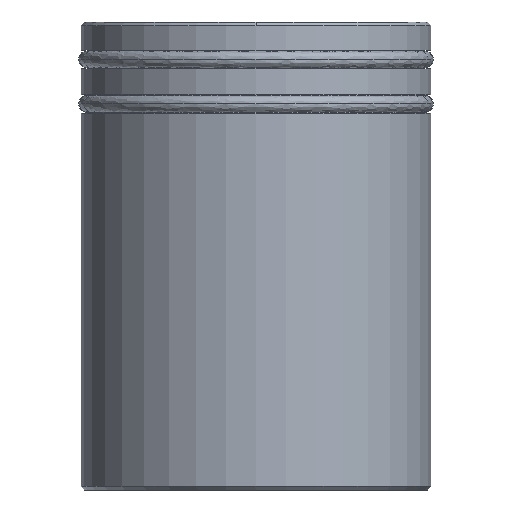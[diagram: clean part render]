
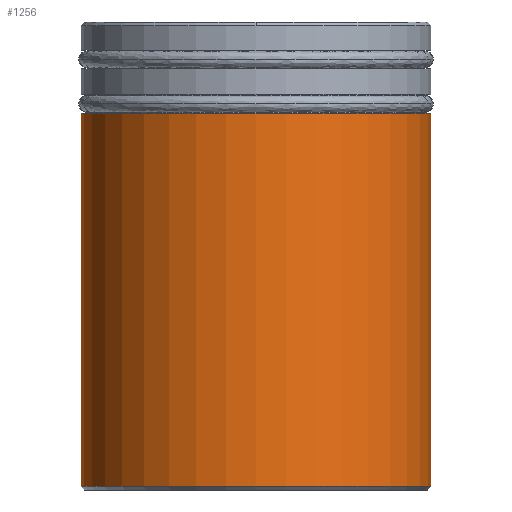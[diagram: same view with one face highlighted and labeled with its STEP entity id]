
A CAD part, front view. The second image highlights one B-rep face of the part: STEP entity #1256.
In plain terms, the highlighted cylindrical face has radius 18.986 mm (diameter 37.973 mm), a partial arc.
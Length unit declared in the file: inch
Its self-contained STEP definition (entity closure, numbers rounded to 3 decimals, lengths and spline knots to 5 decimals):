
#27 = CARTESIAN_POINT ( 'NONE',  ( 0.7475, 0., 1.61 ) ) ;
#88 = DIRECTION ( 'NONE',  ( 0., 0., -1. ) ) ;
#91 = VERTEX_POINT ( 'NONE', #1684 ) ;
#204 = CIRCLE ( 'NONE', #1025, 0.7475 ) ;
#444 = EDGE_CURVE ( 'NONE', #1265, #91, #982, .T. ) ;
#467 = VECTOR ( 'NONE', #1931, 39.37008 ) ;
#471 = ORIENTED_EDGE ( 'NONE', *, *, #2215, .F. ) ;
#494 = ORIENTED_EDGE ( 'NONE', *, *, #444, .T. ) ;
#519 = CARTESIAN_POINT ( 'NONE',  ( -0.7475, 0., 2. ) ) ;
#536 = CARTESIAN_POINT ( 'NONE',  ( 0., 0., 2. ) ) ;
#650 = DIRECTION ( 'NONE',  ( 0., 0., 1. ) ) ;
#681 = CYLINDRICAL_SURFACE ( 'NONE', #807, 0.7475 ) ;
#699 = DIRECTION ( 'NONE',  ( -1., 0., 0. ) ) ;
#705 = DIRECTION ( 'NONE',  ( 0., 0., -1. ) ) ;
#710 = DIRECTION ( 'NONE',  ( 0., 0., -1. ) ) ;
#779 = CARTESIAN_POINT ( 'NONE',  ( 0.7475, 0., 2. ) ) ;
#807 = AXIS2_PLACEMENT_3D ( 'NONE', #536, #710, #699 ) ;
#927 = EDGE_CURVE ( 'NONE', #1379, #1265, #928, .T. ) ;
#928 = LINE ( 'NONE', #519, #467 ) ;
#964 = ORIENTED_EDGE ( 'NONE', *, *, #1929, .T. ) ;
#982 = CIRCLE ( 'NONE', #1496, 0.7475 ) ;
#1025 = AXIS2_PLACEMENT_3D ( 'NONE', #1757, #705, #1934 ) ;
#1256 = ADVANCED_FACE ( 'NONE', ( #2089 ), #681, .T. ) ;
#1265 = VERTEX_POINT ( 'NONE', #1943 ) ;
#1347 = CARTESIAN_POINT ( 'NONE',  ( 0., 0., 0.015 ) ) ;
#1379 = VERTEX_POINT ( 'NONE', #1795 ) ;
#1419 = ORIENTED_EDGE ( 'NONE', *, *, #927, .T. ) ;
#1496 = AXIS2_PLACEMENT_3D ( 'NONE', #1347, #650, #1713 ) ;
#1514 = VECTOR ( 'NONE', #88, 39.37008 ) ;
#1684 = CARTESIAN_POINT ( 'NONE',  ( 0.7475, 0., 0.015 ) ) ;
#1713 = DIRECTION ( 'NONE',  ( -1., 0., 0. ) ) ;
#1757 = CARTESIAN_POINT ( 'NONE',  ( 0., 0., 1.61 ) ) ;
#1795 = CARTESIAN_POINT ( 'NONE',  ( -0.7475, 0., 1.61 ) ) ;
#1929 = EDGE_CURVE ( 'NONE', #1971, #1379, #204, .T. ) ;
#1931 = DIRECTION ( 'NONE',  ( 0., 0., -1. ) ) ;
#1934 = DIRECTION ( 'NONE',  ( -1., 0., 0. ) ) ;
#1943 = CARTESIAN_POINT ( 'NONE',  ( -0.7475, 0., 0.015 ) ) ;
#1971 = VERTEX_POINT ( 'NONE', #27 ) ;
#1979 = EDGE_LOOP ( 'NONE', ( #471, #964, #1419, #494 ) ) ;
#1988 = LINE ( 'NONE', #779, #1514 ) ;
#2089 = FACE_OUTER_BOUND ( 'NONE', #1979, .T. ) ;
#2215 = EDGE_CURVE ( 'NONE', #1971, #91, #1988, .T. ) ;
